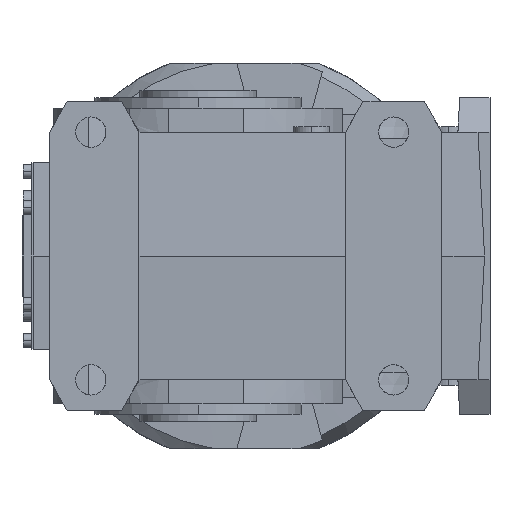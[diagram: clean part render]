
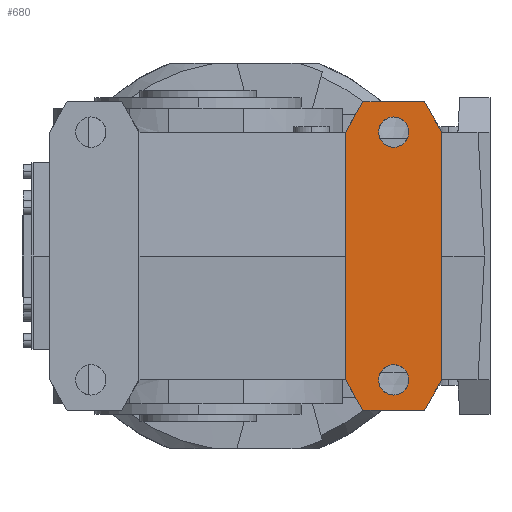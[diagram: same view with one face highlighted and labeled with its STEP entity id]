
A CAD part, left-side view. The second image highlights one B-rep face of the part: STEP entity #680.
In plain terms, the highlighted planar face has unit normal (-1, 0, 0).
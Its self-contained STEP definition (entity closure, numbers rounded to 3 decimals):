
#680 = ADVANCED_FACE( '', ( #3434, #3435, #3436 ), #3437, .T. );
#3434 = FACE_OUTER_BOUND( '', #8891, .T. );
#3435 = FACE_BOUND( '', #8892, .T. );
#3436 = FACE_BOUND( '', #8893, .T. );
#3437 = PLANE( '', #8894 );
#8891 = EDGE_LOOP( '', ( #15025, #15026, #15027, #15028, #15029, #15030, #15031, #15032 ) );
#8892 = EDGE_LOOP( '', ( #15033, #15034 ) );
#8893 = EDGE_LOOP( '', ( #15035, #15036 ) );
#8894 = AXIS2_PLACEMENT_3D( '', #15037, #15038, #15039 );
#15025 = ORIENTED_EDGE( '', *, *, #36566, .T. );
#15026 = ORIENTED_EDGE( '', *, *, #36569, .T. );
#15027 = ORIENTED_EDGE( '', *, *, #36570, .T. );
#15028 = ORIENTED_EDGE( '', *, *, #36571, .T. );
#15029 = ORIENTED_EDGE( '', *, *, #36572, .T. );
#15030 = ORIENTED_EDGE( '', *, *, #36573, .T. );
#15031 = ORIENTED_EDGE( '', *, *, #36574, .F. );
#15032 = ORIENTED_EDGE( '', *, *, #36575, .T. );
#15033 = ORIENTED_EDGE( '', *, *, #36265, .T. );
#15034 = ORIENTED_EDGE( '', *, *, #36576, .T. );
#15035 = ORIENTED_EDGE( '', *, *, #36277, .T. );
#15036 = ORIENTED_EDGE( '', *, *, #36577, .T. );
#15037 = CARTESIAN_POINT( '', ( -132., -212., 112. ) );
#15038 = DIRECTION( '', ( -1., 0., 0. ) );
#15039 = DIRECTION( '', ( 0., 0., 1. ) );
#36265 = EDGE_CURVE( '', #43498, #43495, #43499, .T. );
#36277 = EDGE_CURVE( '', #43522, #43519, #43523, .T. );
#36566 = EDGE_CURVE( '', #44026, #44032, #44034, .T. );
#36569 = EDGE_CURVE( '', #44032, #44037, #44038, .T. );
#36570 = EDGE_CURVE( '', #44037, #44039, #44040, .T. );
#36571 = EDGE_CURVE( '', #44039, #44041, #44042, .T. );
#36572 = EDGE_CURVE( '', #44041, #44043, #44044, .T. );
#36573 = EDGE_CURVE( '', #44043, #44045, #44046, .T. );
#36574 = EDGE_CURVE( '', #44047, #44045, #44048, .T. );
#36575 = EDGE_CURVE( '', #44047, #44026, #44049, .T. );
#36576 = EDGE_CURVE( '', #43495, #43498, #44050, .T. );
#36577 = EDGE_CURVE( '', #43519, #43522, #44051, .T. );
#43495 = VERTEX_POINT( '', #55399 );
#43498 = VERTEX_POINT( '', #55403 );
#43499 = CIRCLE( '', #55404, 11. );
#43519 = VERTEX_POINT( '', #55429 );
#43522 = VERTEX_POINT( '', #55433 );
#43523 = CIRCLE( '', #55434, 11. );
#44026 = VERTEX_POINT( '', #56135 );
#44032 = VERTEX_POINT( '', #56144 );
#44034 = LINE( '', #56147, #56148 );
#44037 = VERTEX_POINT( '', #56153 );
#44038 = LINE( '', #56154, #56155 );
#44039 = VERTEX_POINT( '', #56156 );
#44040 = LINE( '', #56157, #56158 );
#44041 = VERTEX_POINT( '', #56159 );
#44042 = LINE( '', #56160, #56161 );
#44043 = VERTEX_POINT( '', #56162 );
#44044 = LINE( '', #56163, #56164 );
#44045 = VERTEX_POINT( '', #56165 );
#44046 = LINE( '', #56166, #56167 );
#44047 = VERTEX_POINT( '', #56168 );
#44048 = LINE( '', #56169, #56170 );
#44049 = LINE( '', #56171, #56172 );
#44050 = CIRCLE( '', #56173, 11. );
#44051 = CIRCLE( '', #56174, 11. );
#55399 = CARTESIAN_POINT( '', ( -132., -142., -79. ) );
#55403 = CARTESIAN_POINT( '', ( -132., -142., -101. ) );
#55404 = AXIS2_PLACEMENT_3D( '', #73862, #73863, #73864 );
#55429 = CARTESIAN_POINT( '', ( -132., -142., 101. ) );
#55433 = CARTESIAN_POINT( '', ( -132., -142., 79. ) );
#55434 = AXIS2_PLACEMENT_3D( '', #73886, #73887, #73888 );
#56135 = CARTESIAN_POINT( '', ( -132., -177., -90. ) );
#56144 = CARTESIAN_POINT( '', ( -132., -177., 90. ) );
#56147 = CARTESIAN_POINT( '', ( -132., -177., 56. ) );
#56148 = VECTOR( '', #74349, 1. );
#56153 = CARTESIAN_POINT( '', ( -132., -164.298, 112. ) );
#56154 = CARTESIAN_POINT( '', ( -132., -170.261, 101.672 ) );
#56155 = VECTOR( '', #74352, 1. );
#56156 = CARTESIAN_POINT( '', ( -132., -119.702, 112. ) );
#56157 = CARTESIAN_POINT( '', ( -132., -212., 112. ) );
#56158 = VECTOR( '', #74353, 1. );
#56159 = CARTESIAN_POINT( '', ( -132., -107., 90. ) );
#56160 = CARTESIAN_POINT( '', ( -132., -124.888, 120.983 ) );
#56161 = VECTOR( '', #74354, 1. );
#56162 = CARTESIAN_POINT( '', ( -132., -107., -90. ) );
#56163 = CARTESIAN_POINT( '', ( -132., -107., 56. ) );
#56164 = VECTOR( '', #74355, 1. );
#56165 = CARTESIAN_POINT( '', ( -132., -119.702, -112. ) );
#56166 = CARTESIAN_POINT( '', ( -132., -82.742, -47.983 ) );
#56167 = VECTOR( '', #74356, 1. );
#56168 = CARTESIAN_POINT( '', ( -132., -164.298, -112. ) );
#56169 = CARTESIAN_POINT( '', ( -132., -212., -112. ) );
#56170 = VECTOR( '', #74357, 1. );
#56171 = CARTESIAN_POINT( '', ( -132., -225.109, -6.672 ) );
#56172 = VECTOR( '', #74358, 1. );
#56173 = AXIS2_PLACEMENT_3D( '', #74359, #74360, #74361 );
#56174 = AXIS2_PLACEMENT_3D( '', #74362, #74363, #74364 );
#73862 = CARTESIAN_POINT( '', ( -132., -142., -90. ) );
#73863 = DIRECTION( '', ( 1., 0., 0. ) );
#73864 = DIRECTION( '', ( 0., 0., 1. ) );
#73886 = CARTESIAN_POINT( '', ( -132., -142., 90. ) );
#73887 = DIRECTION( '', ( 1., 0., 0. ) );
#73888 = DIRECTION( '', ( 0., 0., 1. ) );
#74349 = DIRECTION( '', ( 0., 0., 1. ) );
#74352 = DIRECTION( '', ( 0., 0.5, 0.866 ) );
#74353 = DIRECTION( '', ( 0., 1., 0. ) );
#74354 = DIRECTION( '', ( 0., 0.5, -0.866 ) );
#74355 = DIRECTION( '', ( 0., 0., -1. ) );
#74356 = DIRECTION( '', ( 0., -0.5, -0.866 ) );
#74357 = DIRECTION( '', ( 0., 1., 0. ) );
#74358 = DIRECTION( '', ( 0., -0.5, 0.866 ) );
#74359 = CARTESIAN_POINT( '', ( -132., -142., -90. ) );
#74360 = DIRECTION( '', ( 1., 0., 0. ) );
#74361 = DIRECTION( '', ( 0., 0., 1. ) );
#74362 = CARTESIAN_POINT( '', ( -132., -142., 90. ) );
#74363 = DIRECTION( '', ( 1., 0., 0. ) );
#74364 = DIRECTION( '', ( 0., 0., 1. ) );
